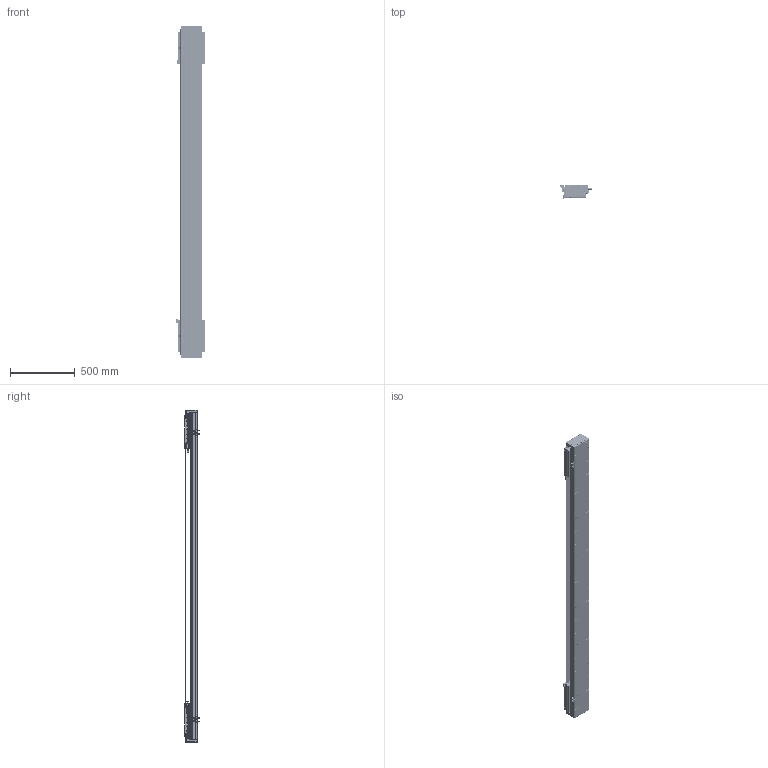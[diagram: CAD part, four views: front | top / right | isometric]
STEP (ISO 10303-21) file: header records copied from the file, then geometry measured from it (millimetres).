
FILE_DESCRIPTION (( 'STEP AP203' ), '1' );
FILE_NAME ('DA-C165-2-C3-T1940-C010-0.2 直线电机.STEP', '2023-06-13T09:20:43', ( '微软用户' ), ( '微软中国' ), 'SwSTEP 2.0', 'SolidWorks 2019', '' );
FILE_SCHEMA (( 'CONFIG_CONTROL_DESIGN' ));
Length unit declared in the file: millimetre
Products named in the file (22): 复件 DA165-GYP-00 光电感应片^DA-C165-C3-T-C010-0.2-N 直线电机; 复件 DMA-010-0.2 读数头^DA-C165-C3-T-C010-0.2-N 直线电机; 葩璃 PM-Y45^DA-C165-C3-T-C010-0.2-N 眻盄萇儂; 复件 XD-U-02L 磁栅尺^DA-C165-C3-T-C010-0.2-N 直线电机_T; 复件 DA165-GD-1860-002-00 钢带盖板^复件 CU165钢带组件_DA-C165-C3-T-C010-0.2-N 直线电机; 复件 DA126-GYP-ZJ-00 中间光电感应片^DA-C165-C3-T-C010-0.2-N 直线电机; 葩璃 DA95-GT-T-00^IU-CU165-L 菁釱絳寢_T; 复件 66338-1000-006-00 光电感应块^DA-C165-C3-T-C010-0.2-N 直线电机; DA-C165-2-C3-T1940-C010-0.2 眻盄萇儂; 复件 DA165-GD-DG-H-00 端盖^复件 CU165钢带组件_DA-C165-C3-T-C010-0.2-N 直线电机; 珨极趙賑雄怢啣C3-wf; 复件 DA165-GDLK-00 钢带拉块^复件 CU165钢带组件_DA-C165-C3-T-C010-0.2-N 直线电机; 复件 DA95-HXJ-00 缓冲橡胶^DA-C165-C3-T-C010-0.2-N 直线电机; 复件 DKW-HXJ-JY-00 缓冲橡胶^DA-C165-C3-T-C010-0.2-N 直线电机; 葩璃 CKM01-W075-TRL^DA-C165-C3-T-C010-0.2-N 眻盄萇儂; 复件 六角薄螺母 M3^DA-C165-C3-T-C010-0.2-N 直线电机_GB_FASTENER_NUT_STNAB M3-C; 复件 CU165钢带组件^DA-C165-C3-T-C010-0.2-N 直线电机; 复件 CU165 底座^IU-CU165-L 底座导轨_L2520; IU-CU165-L 菁釱絳寢; 葩璃 CKM03-W075-C1C2-TP-3.0^DA-C165-C3-T-C010-0.2-N 眻盄萇儂; 复件 DA165-GDYK-00 钢带压块^复件 CU165钢带组件_DA-C165-C3-T-C010-0.2-N 直线电机; 葩璃 PM-T45^DA-C165-C3-T-C010-0.2-N 眻盄萇儂
Assembly tree (45 placements, depth 3):
  DA-C165-2-C3-T1940-C010-0.2 眻盄萇儂
    IU-CU165-L 菁釱絳寢
      复件 CU165 底座^IU-CU165-L 底座导轨_L2520
      葩璃 DA95-GT-T-00^IU-CU165-L 菁釱絳寢_T  x4
    复件 XD-U-02L 磁栅尺^DA-C165-C3-T-C010-0.2-N 直线电机_T
    葩璃 PM-T45^DA-C165-C3-T-C010-0.2-N 眻盄萇儂  x4
    葩璃 CKM01-W075-TRL^DA-C165-C3-T-C010-0.2-N 眻盄萇儂
    复件 CU165钢带组件^DA-C165-C3-T-C010-0.2-N 直线电机
      复件 DA165-GD-DG-H-00 端盖^复件 CU165钢带组件_DA-C165-C3-T-C010-0.2-N 直线电机  x2
      复件 DA165-GDYK-00 钢带压块^复件 CU165钢带组件_DA-C165-C3-T-C010-0.2-N 直线电机  x2
      复件 DA165-GD-1860-002-00 钢带盖板^复件 CU165钢带组件_DA-C165-C3-T-C010-0.2-N 直线电机
      复件 DA165-GDLK-00 钢带拉块^复件 CU165钢带组件_DA-C165-C3-T-C010-0.2-N 直线电机  x2
    复件 DA95-HXJ-00 缓冲橡胶^DA-C165-C3-T-C010-0.2-N 直线电机  x4
    复件 DMA-010-0.2 读数头^DA-C165-C3-T-C010-0.2-N 直线电机  x2
    复件 DA165-GYP-00 光电感应片^DA-C165-C3-T-C010-0.2-N 直线电机  x2
    复件 66338-1000-006-00 光电感应块^DA-C165-C3-T-C010-0.2-N 直线电机
    葩璃 PM-Y45^DA-C165-C3-T-C010-0.2-N 眻盄萇儂
    复件 DA126-GYP-ZJ-00 中间光电感应片^DA-C165-C3-T-C010-0.2-N 直线电机
    葩璃 CKM03-W075-C1C2-TP-3.0^DA-C165-C3-T-C010-0.2-N 眻盄萇儂  x2
    复件 DKW-HXJ-JY-00 缓冲橡胶^DA-C165-C3-T-C010-0.2-N 直线电机  x2
    复件 六角薄螺母 M3^DA-C165-C3-T-C010-0.2-N 直线电机_GB_FASTENER_NUT_STNAB M3-C  x8
    珨极趙賑雄怢啣C3-wf  x2
Bounding box: 247.2 x 111.45 x 2560 mm (x, y, z)
Volume: 16959354.5 mm3; surface area: 4765310.1 mm2
Topology: 121 solids, 221 shells, 6521 faces, 17752 edges, 11040 vertices
Faces by surface type: cylinder 3438, plane 2015, cone 980, torus 80, sphere 8
Entity records: 146278 total; most frequent: CARTESIAN_POINT 38679, ORIENTED_EDGE 22088, DIRECTION 21736, EDGE_CURVE 11044, AXIS2_PLACEMENT_3D 8297, VERTEX_POINT 7194, EDGE_LOOP 5156, LINE 5142
